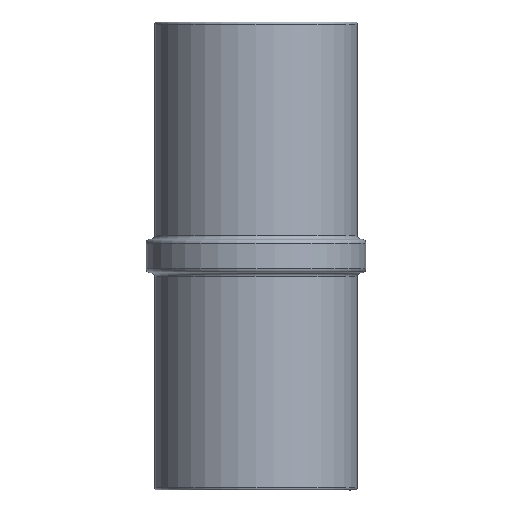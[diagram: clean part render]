
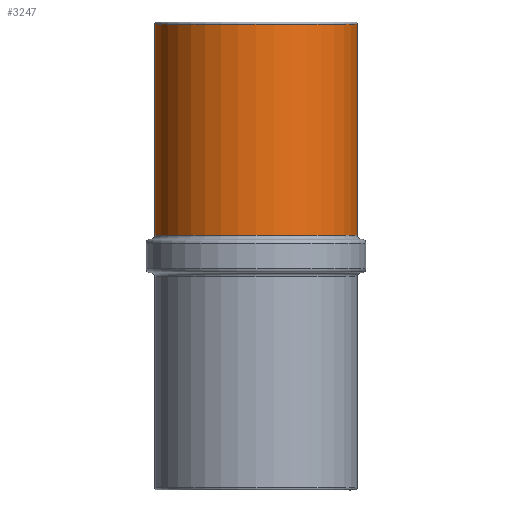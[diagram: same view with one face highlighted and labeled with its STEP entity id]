
A CAD part, left-side view. The second image highlights one B-rep face of the part: STEP entity #3247.
In plain terms, the highlighted cylindrical face has radius 19.241 mm (diameter 38.481 mm), a partial arc.
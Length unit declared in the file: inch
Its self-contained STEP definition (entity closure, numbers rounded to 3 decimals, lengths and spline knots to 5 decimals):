
#76 = FACE_OUTER_BOUND ( 'NONE', #1410, .T. ) ;
#140 = CARTESIAN_POINT ( 'NONE',  ( 0., 0.7575, 0.03125 ) ) ;
#360 = EDGE_CURVE ( 'NONE', #407, #1082, #1651, .T. ) ;
#374 = ORIENTED_EDGE ( 'NONE', *, *, #4444, .T. ) ;
#407 = VERTEX_POINT ( 'NONE', #5519 ) ;
#409 = CARTESIAN_POINT ( 'NONE',  ( 0., -0.7575, 0. ) ) ;
#473 = CIRCLE ( 'NONE', #1606, 0.7575 ) ;
#698 = CARTESIAN_POINT ( 'NONE',  ( 0., 0.7575, 0. ) ) ;
#1019 = DIRECTION ( 'NONE',  ( 0., 1., 0. ) ) ;
#1031 = ORIENTED_EDGE ( 'NONE', *, *, #5060, .T. ) ;
#1082 = VERTEX_POINT ( 'NONE', #140 ) ;
#1327 = VECTOR ( 'NONE', #5266, 39.37008 ) ;
#1410 = EDGE_LOOP ( 'NONE', ( #1710, #1031, #1762, #374 ) ) ;
#1430 = DIRECTION ( 'NONE',  ( 0., -1., 0. ) ) ;
#1515 = DIRECTION ( 'NONE',  ( 0., 0., 1. ) ) ;
#1606 = AXIS2_PLACEMENT_3D ( 'NONE', #5310, #2241, #4036 ) ;
#1651 = LINE ( 'NONE', #698, #1736 ) ;
#1666 = AXIS2_PLACEMENT_3D ( 'NONE', #3231, #1874, #1019 ) ;
#1710 = ORIENTED_EDGE ( 'NONE', *, *, #5719, .F. ) ;
#1736 = VECTOR ( 'NONE', #5226, 39.37008 ) ;
#1762 = ORIENTED_EDGE ( 'NONE', *, *, #360, .T. ) ;
#1874 = DIRECTION ( 'NONE',  ( 0., 0., -1. ) ) ;
#1906 = VERTEX_POINT ( 'NONE', #2143 ) ;
#1959 = CARTESIAN_POINT ( 'NONE',  ( 0., 0., 0.03125 ) ) ;
#2143 = CARTESIAN_POINT ( 'NONE',  ( 0., -0.7575, 0.03125 ) ) ;
#2241 = DIRECTION ( 'NONE',  ( 0., 0., -1. ) ) ;
#2368 = CYLINDRICAL_SURFACE ( 'NONE', #1666, 0.7575 ) ;
#2708 = VERTEX_POINT ( 'NONE', #5145 ) ;
#3231 = CARTESIAN_POINT ( 'NONE',  ( 0., 0., 0. ) ) ;
#3247 = ADVANCED_FACE ( 'NONE', ( #76 ), #2368, .T. ) ;
#4036 = DIRECTION ( 'NONE',  ( 0., -1., 0. ) ) ;
#4444 = EDGE_CURVE ( 'NONE', #1082, #1906, #4828, .T. ) ;
#4828 = CIRCLE ( 'NONE', #5010, 0.7575 ) ;
#5010 = AXIS2_PLACEMENT_3D ( 'NONE', #1959, #1515, #1430 ) ;
#5060 = EDGE_CURVE ( 'NONE', #2708, #407, #473, .T. ) ;
#5145 = CARTESIAN_POINT ( 'NONE',  ( 0., -0.7575, 1.61 ) ) ;
#5226 = DIRECTION ( 'NONE',  ( 0., 0., -1. ) ) ;
#5266 = DIRECTION ( 'NONE',  ( 0., 0., -1. ) ) ;
#5310 = CARTESIAN_POINT ( 'NONE',  ( 0., 0., 1.61 ) ) ;
#5380 = LINE ( 'NONE', #409, #1327 ) ;
#5519 = CARTESIAN_POINT ( 'NONE',  ( 0., 0.7575, 1.61 ) ) ;
#5719 = EDGE_CURVE ( 'NONE', #2708, #1906, #5380, .T. ) ;
